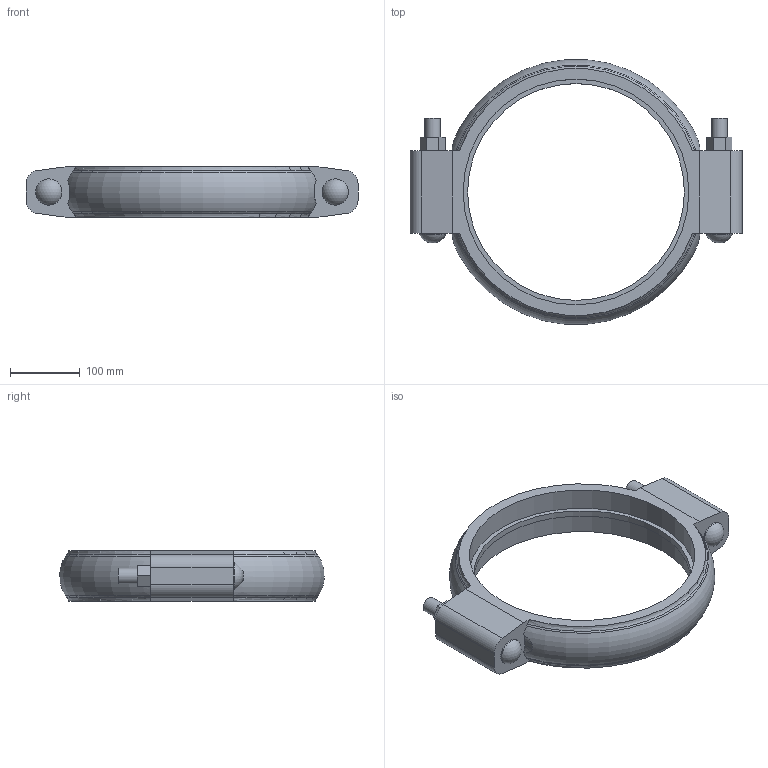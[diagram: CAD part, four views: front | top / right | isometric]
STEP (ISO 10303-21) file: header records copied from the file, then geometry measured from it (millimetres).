
FILE_DESCRIPTION(/* description */ ('VIC STRENGTHIN COUPLING STYLE E497 (RIGID)','CAx-IF Rec.Pracs.---Representation and Presentation of Product Manufacturing Information (PMI)---4.0---2014-10-13'),/* implementation_level */ '2;1');
FILE_NAME(/* name */ 'C:\Users\Vjadhav\AppData\Roaming\Autodesk\ApplicationPlugins\Back Up\Victaulic_SS-StrengThin 100_Coupling Rigid_Style E497 (ST1)\Victaulic_SS-StrengThin 100_Coupling Rigid_Style E497 (ST1)_12 (300).stp',/* time_stamp */ '2020-07-07T19:35:54+05:00',/* author */ ('jheald'),/* organization */ ('Victaulic'),/* preprocessor_version */ 'ST-DEVELOPER v17.2',/* originating_system */ 'Autodesk Inventor 2019',/* authorisation */ '');
FILE_SCHEMA (('AP242_MANAGED_MODEL_BASED_3D_ENGINEERING_MIM_LF { 1 0 10303 442 1 1 4 }'));
Length unit declared in the file: inch
Products named in the file (1): E497-12.0
Bounding box: 476.25 x 379.68 x 73.15 mm (x, y, z)
Volume: 2802943.1 mm3; surface area: 298573.4 mm2
Topology: 1 solids, 3 shells, 79 faces, 211 edges, 142 vertices
Faces by surface type: plane 42, cylinder 25, torus 10, sphere 2
Full cylindrical faces by diameter (mm): 22.225 x4, 37.694 x2, 311.15 x1, 323.85 x2
Entity records: 2916 total; most frequent: CARTESIAN_POINT 710, DIRECTION 427, ORIENTED_EDGE 422, EDGE_CURVE 211, AXIS2_PLACEMENT_3D 159, VERTEX_POINT 142, LINE 109, VECTOR 109
